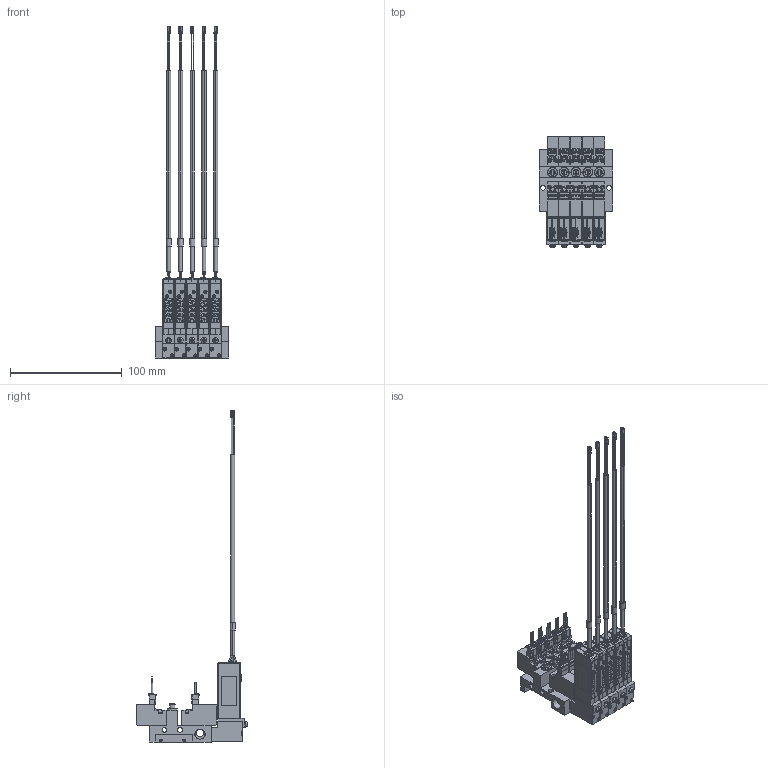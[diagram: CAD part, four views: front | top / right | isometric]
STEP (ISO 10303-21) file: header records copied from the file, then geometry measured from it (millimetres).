
FILE_DESCRIPTION(('STEP AP203'),'1');
FILE_NAME('1-L-4EZ-M05-V9.stp','2025-05-09T01:25:35',(' '),(' '),'Spatial InterOp 3D',' ',' ');
FILE_SCHEMA(('CONFIG_CONTROL_DESIGN'));
Length unit declared in the file: millimetre
Products named in the file (147): PV1※1-L-4EZ-M05-V9; BODY; PLATE; NEEDLE; BOLT; SOLENOID VALVE VOLTAGE PV; 42; 45; 48; 51; SOLENOID VALVE PV101-W; BRAKET(MPS-V9  PV-L용)NEW; BRAKET; MPS-V9AC.ics; __1; MPS-V9AC; MSBR-1_1; MSBR-4_1; MSBR-7_1; MSBR-21_1; MSBR-24_1; MSBR-25_1; MSBR-26_1; MSBR-27_1; MSBR-28_1; MSBR-29_1
Assembly tree (146 placements, depth 5):
  PV1※1-L-4EZ-M05-V9
    BODY
    PLATE
    PLATE
    NEEDLE
    BOLT
    BOLT
    BOLT
    BOLT
    BOLT
    BOLT
    SOLENOID VALVE VOLTAGE PV
      42
      45
      48
      51
    NEEDLE
    SOLENOID VALVE VOLTAGE PV
      42
      45
      48
      51
    NEEDLE
    SOLENOID VALVE VOLTAGE PV
      42
      45
      48
      51
    PLATE
    BOLT
    BOLT
    BOLT
    PLATE
    BOLT
    BOLT
    BOLT
    NEEDLE
    SOLENOID VALVE VOLTAGE PV
      42
      45
      48
      51
    NEEDLE
    SOLENOID VALVE VOLTAGE PV
      42
      45
      48
      51
    PLATE
    BOLT
    BOLT
    BOLT
    SOLENOID VALVE PV101-W
    SOLENOID VALVE PV101-W
    SOLENOID VALVE PV101-W
    SOLENOID VALVE PV101-W
    SOLENOID VALVE PV101-W
    BRAKET(MPS-V9  PV-L용)NEW
      BOLT
      BOLT
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Bounding box: 66 x 99.29 x 297.25 mm (x, y, z)
Volume: 145293.7 mm3; surface area: 123686.5 mm2
Topology: 121 solids, 166 shells, 6065 faces, 16492 edges, 11116 vertices
Faces by surface type: plane 4731, cylinder 1017, torus 115, bspline 75, cone 57, extrusion 50, sphere 20
Full cylindrical faces by diameter (mm): 1.4 x15, 2 x15, 2.3 x10, 2.5 x5, 3 x35, 3.5 x5, 4.2 x12, 4.5 x2, 5 x10, 6.5 x1, 8.797 x2, 9 x5
Entity records: 199145 total; most frequent: CARTESIAN_POINT 38319, ORIENTED_EDGE 31834, DIRECTION 30852, EDGE_CURVE 16107, VECTOR 12526, LINE 12476, VERTEX_POINT 10980, AXIS2_PLACEMENT_3D 9163
